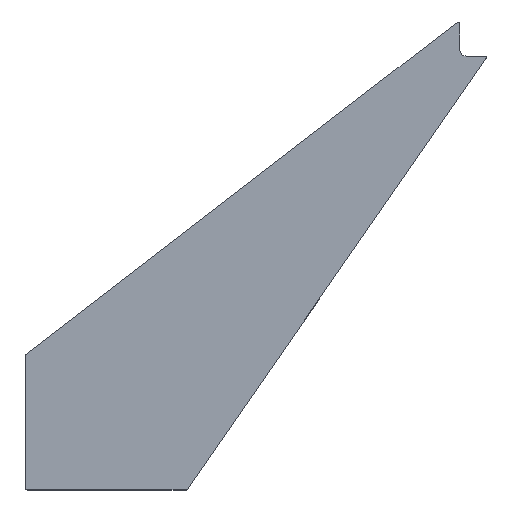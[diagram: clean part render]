
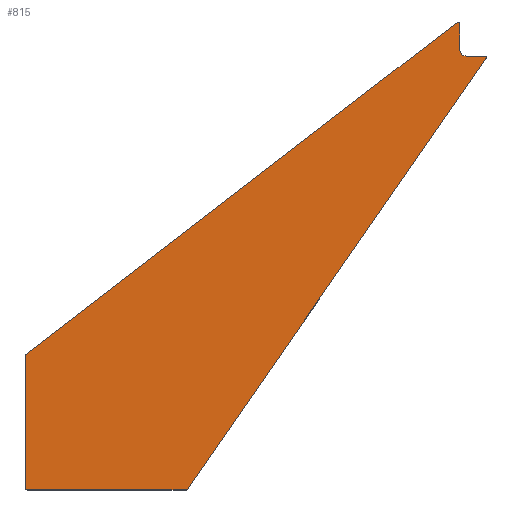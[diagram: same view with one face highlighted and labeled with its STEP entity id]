
A CAD part, top view. The second image highlights one B-rep face of the part: STEP entity #815.
In plain terms, the highlighted planar face has unit normal (0, 0, 1).
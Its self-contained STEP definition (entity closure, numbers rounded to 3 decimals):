
#395=CIRCLE('',#779,12.5);
#397=CIRCLE('',#782,3.);
#398=CIRCLE('',#783,3.);
#399=CIRCLE('',#784,3.);
#400=CIRCLE('',#785,3.);
#401=CIRCLE('',#786,3.);
#421=ORIENTED_EDGE('',*,*,#560,.F.);
#422=ORIENTED_EDGE('',*,*,#564,.F.);
#423=ORIENTED_EDGE('',*,*,#565,.F.);
#424=ORIENTED_EDGE('',*,*,#566,.F.);
#425=ORIENTED_EDGE('',*,*,#567,.T.);
#426=ORIENTED_EDGE('',*,*,#568,.F.);
#427=ORIENTED_EDGE('',*,*,#569,.T.);
#428=ORIENTED_EDGE('',*,*,#570,.T.);
#429=ORIENTED_EDGE('',*,*,#571,.T.);
#430=ORIENTED_EDGE('',*,*,#572,.T.);
#431=ORIENTED_EDGE('',*,*,#573,.F.);
#432=ORIENTED_EDGE('',*,*,#561,.F.);
#488=VECTOR('',#626,1.);
#490=VECTOR('',#638,1.);
#491=VECTOR('',#641,1.);
#492=VECTOR('',#644,1.);
#493=VECTOR('',#647,1.);
#494=VECTOR('',#650,1.);
#512=LINE('',#709,#488);
#514=LINE('',#720,#490);
#515=LINE('',#724,#491);
#516=LINE('',#728,#492);
#517=LINE('',#732,#493);
#518=LINE('',#735,#494);
#534=VERTEX_POINT('',#703);
#536=VERTEX_POINT('',#707);
#537=VERTEX_POINT('',#711);
#539=VERTEX_POINT('',#717);
#540=VERTEX_POINT('',#719);
#541=VERTEX_POINT('',#721);
#542=VERTEX_POINT('',#723);
#543=VERTEX_POINT('',#725);
#544=VERTEX_POINT('',#727);
#545=VERTEX_POINT('',#729);
#546=VERTEX_POINT('',#731);
#547=VERTEX_POINT('',#733);
#560=EDGE_CURVE('',#536,#534,#512,.T.);
#561=EDGE_CURVE('',#534,#537,#395,.T.);
#564=EDGE_CURVE('',#539,#536,#397,.T.);
#565=EDGE_CURVE('',#540,#539,#514,.T.);
#566=EDGE_CURVE('',#541,#540,#398,.T.);
#567=EDGE_CURVE('',#541,#542,#515,.T.);
#568=EDGE_CURVE('',#543,#542,#399,.T.);
#569=EDGE_CURVE('',#543,#544,#516,.T.);
#570=EDGE_CURVE('',#544,#545,#400,.T.);
#571=EDGE_CURVE('',#545,#546,#517,.T.);
#572=EDGE_CURVE('',#546,#547,#401,.T.);
#573=EDGE_CURVE('',#537,#547,#518,.T.);
#595=EDGE_LOOP('',(#421,#422,#423,#424,#425,#426,#427,#428,#429,#430,#431,
#432));
#609=FACE_BOUND('',#595,.T.);
#626=DIRECTION('',(0.,-49.718,0.));
#629=DIRECTION('',(0.,0.,1.));
#630=DIRECTION('',(0.,-12.5,0.));
#634=DIRECTION('',(0.,0.,1.));
#635=DIRECTION('',(0.,-1.,0.));
#636=DIRECTION('',(0.,0.,-1.));
#637=DIRECTION('',(0.,-3.,0.));
#638=DIRECTION('',(824.,634.565,0.));
#639=DIRECTION('',(0.,0.,-1.));
#640=DIRECTION('',(0.,-3.,0.));
#641=DIRECTION('',(0.,-254.653,0.));
#642=DIRECTION('',(0.,0.,-1.));
#643=DIRECTION('',(0.,-3.,0.));
#644=DIRECTION('',(303.676,0.,0.));
#645=DIRECTION('',(0.,0.,1.));
#646=DIRECTION('',(0.,3.,0.));
#647=DIRECTION('',(571.266,824.,0.));
#648=DIRECTION('',(0.,0.,1.));
#649=DIRECTION('',(0.,3.,0.));
#650=DIRECTION('',(35.442,0.,0.));
#703=CARTESIAN_POINT('',(5804.504,13793.86,40.));
#707=CARTESIAN_POINT('',(5804.504,13843.578,40.));
#709=CARTESIAN_POINT('',(5804.504,13843.578,40.));
#711=CARTESIAN_POINT('',(5817.004,13781.36,40.));
#712=CARTESIAN_POINT('',(5817.004,13793.86,40.));
#716=CARTESIAN_POINT('',(0.,0.,40.));
#717=CARTESIAN_POINT('',(5799.673,13845.955,40.));
#718=CARTESIAN_POINT('',(5801.504,13843.578,40.));
#719=CARTESIAN_POINT('',(4975.673,13211.389,40.));
#720=CARTESIAN_POINT('',(4975.673,13211.389,40.));
#721=CARTESIAN_POINT('',(4974.504,13209.012,40.));
#722=CARTESIAN_POINT('',(4977.504,13209.012,40.));
#723=CARTESIAN_POINT('',(4974.504,12954.36,40.));
#724=CARTESIAN_POINT('',(4974.504,13209.012,40.));
#725=CARTESIAN_POINT('',(4977.504,12951.36,40.));
#726=CARTESIAN_POINT('',(4977.504,12954.36,40.));
#727=CARTESIAN_POINT('',(5281.18,12951.36,40.));
#728=CARTESIAN_POINT('',(4977.504,12951.36,40.));
#729=CARTESIAN_POINT('',(5283.645,12952.651,40.));
#730=CARTESIAN_POINT('',(5281.18,12954.36,40.));
#731=CARTESIAN_POINT('',(5854.911,13776.651,40.));
#732=CARTESIAN_POINT('',(5283.645,12952.651,40.));
#733=CARTESIAN_POINT('',(5852.446,13781.36,40.));
#734=CARTESIAN_POINT('',(5852.446,13778.36,40.));
#735=CARTESIAN_POINT('',(5817.004,13781.36,40.));
#779=AXIS2_PLACEMENT_3D('',#712,#629,#630);
#781=AXIS2_PLACEMENT_3D('',#716,#634,#635);
#782=AXIS2_PLACEMENT_3D('',#718,#636,#637);
#783=AXIS2_PLACEMENT_3D('',#722,#639,#640);
#784=AXIS2_PLACEMENT_3D('',#726,#642,#643);
#785=AXIS2_PLACEMENT_3D('',#730,#645,#646);
#786=AXIS2_PLACEMENT_3D('',#734,#648,#649);
#806=PLANE('',#781);
#815=ADVANCED_FACE('',(#609),#806,.T.);
